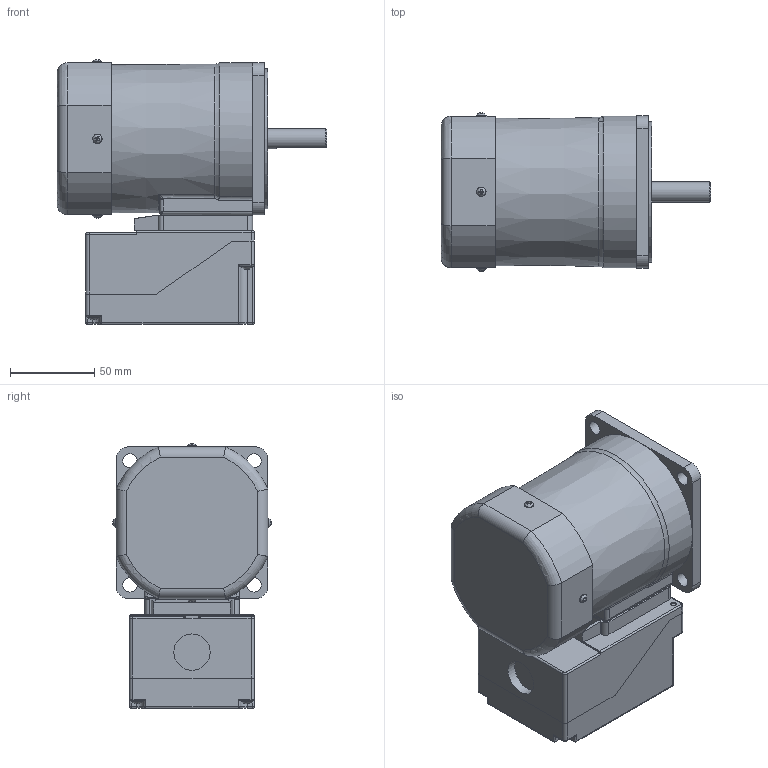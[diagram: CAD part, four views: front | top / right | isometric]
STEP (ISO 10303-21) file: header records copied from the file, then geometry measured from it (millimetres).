
FILE_DESCRIPTION(/* description */ (''),/* implementation_level */ '2;1');
FILE_NAME(/* name */ 'E:\도면작업\2016\0704) 미주향 SG 도면\3D MOTOR\TERMINAL BOX TYPE\INDUCTION TERMINAL BOX\SG9I60D_-T2.stp',/* time_stamp */ '2017-01-23T18:55:56+09:00',/* author */ ('jy-jung'),/* organization */ (''),/* preprocessor_version */ 'ST-DEVELOPER v15.6',/* originating_system */ 'Autodesk Inventor 2015',/* authorisation */ '');
FILE_SCHEMA (('AUTOMOTIVE_DESIGN { 1 0 10303 214 3 1 1 }'));
Length unit declared in the file: millimetre
Products named in the file (1): 부품1
Bounding box: 159.8 x 93.89 x 156.95 mm (x, y, z)
Volume: 935615.5 mm3; surface area: 138780.9 mm2
Topology: 1 solids, 9 shells, 946 faces, 2493 edges, 1591 vertices
Faces by surface type: plane 503, cylinder 310, bspline 55, torus 42, cone 24, sphere 12
Full cylindrical faces by diameter (mm): 2.5 x4, 3 x8, 3.2 x3, 3.4 x1, 3.5 x4, 4.2 x1, 4.5 x8, 5.5 x8, 5.6 x4, 6.9 x4, 8.5 x4, 12 x1, 21.5 x1, 40 x1, 83 x1
Entity records: 31532 total; most frequent: CARTESIAN_POINT 7721, ORIENTED_EDGE 4708, DIRECTION 4678, EDGE_CURVE 2354, AXIS2_PLACEMENT_3D 1649, VERTEX_POINT 1572, LINE 1380, VECTOR 1380
